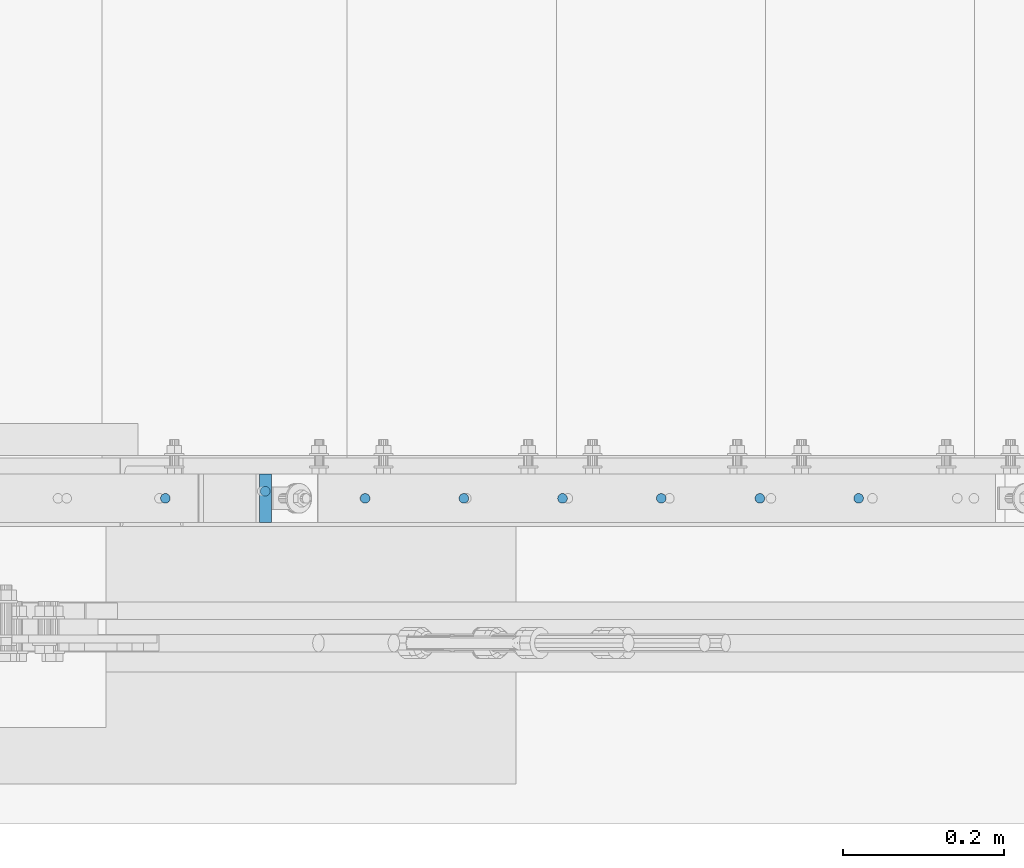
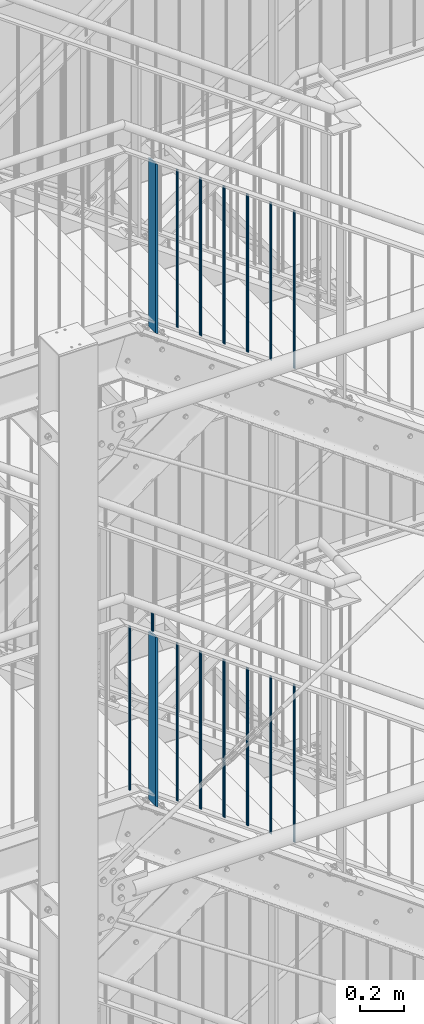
# One storey, part 35 of 825: 16 columns.
"""IFC2X3 building model written with IfcOpenShell, lengths in millimetres."""

from ifc_helpers import new_model, entity, si_unit, converted_unit, frame, origin, origin_with_axes, origin_2d, place, context, project, spatial, rectangle, circle, extrude, clip, halfspace, material, element, save


model = new_model("IFC2X3")

# Units and contexts
model_context = context("Model", 3, precision=1e-09, world=origin_with_axes())
ifc_project = project(units=[si_unit("LENGTHUNIT", "METRE", prefix="MILLI"), si_unit("AREAUNIT", "SQUARE_METRE"), si_unit("VOLUMEUNIT", "CUBIC_METRE"), converted_unit("PLANEANGLEUNIT", "DEGREE", entity("IfcPlaneAngleMeasure", 0.01745329), si_unit("PLANEANGLEUNIT", "RADIAN"), dimensions=[0, 0, 0, 0, 0, 0, 0])], contexts=[model_context])

# Site, building, storey
site_placement = place(None, origin_with_axes())
site = spatial("IfcSite", under=ifc_project, at=site_placement, Name="Cnopf'sche Kinderklinik", CompositionType="ELEMENT")
building_placement = place(site_placement, origin_with_axes())
building = spatial("IfcBuilding", under=site, at=building_placement, Name="Struktur 1", CompositionType="ELEMENT")
storey_placement = place(building_placement, origin_with_axes())
storey = spatial("IfcBuildingStorey", under=building, at=storey_placement, Name="Default Storey", CompositionType="ELEMENT", Elevation=0.0)

# Columns
ifc_material = material(Name="S235JR")
column_1_placement = place(None, frame((5394.791831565, 4526.736971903, 16139.225251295), z_axis=(0.0, 0.0, 1.0), x_axis=(-1.0, 0.0, 0.0)))
element("IfcColumn", 1, at=column_1_placement, inside=storey, material=ifc_material, Name="Railing_Post_Stair#11", ObjectType="Railing_Post_Stair#11", context=model_context, shape_type="Clipping", body=[
    clip(clip(extrude(rectangle(XDim=15.0, YDim=60.0, at=origin_2d()), origin(), (0.0, 0.0, -1.0), 1013.143391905), halfspace(frame((-4108.031662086, 4526.736971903, -3011.985205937), z_axis=(0.586383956, 0.0, -0.810033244), x_axis=(0.0, 1.0, 0.0)), True)), halfspace(frame((-3663.065195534, 4526.736971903, -3626.663740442), z_axis=(-0.586383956, 0.0, 0.810033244), x_axis=(0.0, -1.0, 0.0)), True)),
])
column_2_placement = place(None, frame((6132.791950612, 4526.736971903, 15577.286043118), z_axis=(0.0, 0.0, 1.0), x_axis=(-1.0, 0.0, 0.0)))
element("IfcColumn", 2, at=column_2_placement, inside=storey, material=ifc_material, Name="Railing_Picket_Stair#70", ObjectType="Railing_Picket_Stair#70", context=model_context, shape_type="Clipping", body=[
    clip(clip(extrude(circle(Radius=6.0, at=origin_2d()), origin(), (0.0, 0.0, -1.0), 896.017308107), halfspace(frame((-3370.031543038, 4526.736971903, -2450.04599776), z_axis=(0.586383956, 0.0, -0.810033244), x_axis=(0.0, 1.0, 0.0)), True)), halfspace(frame((-2954.384274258, 4526.736971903, -3024.222870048), z_axis=(-0.586383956, 0.0, 0.810033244), x_axis=(0.0, -1.0, 0.0)), True)),
])
column_3_placement = place(None, frame((6010.041926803, 4526.736971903, 15666.144920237), z_axis=(0.0, 0.0, 1.0), x_axis=(-1.0, 0.0, 0.0)))
element("IfcColumn", 3, at=column_3_placement, inside=storey, material=ifc_material, Name="Railing_Picket_Stair#71", ObjectType="Railing_Picket_Stair#71", context=model_context, shape_type="Clipping", body=[
    clip(clip(extrude(circle(Radius=6.0, at=origin_2d()), origin(), (0.0, 0.0, -1.0), 896.017308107), halfspace(frame((-3492.781566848, 4526.736971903, -2538.904874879), z_axis=(0.586383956, 0.0, -0.810033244), x_axis=(0.0, 1.0, 0.0)), True)), halfspace(frame((-3077.134298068, 4526.736971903, -3113.081747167), z_axis=(-0.586383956, 0.0, 0.810033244), x_axis=(0.0, -1.0, 0.0)), True)),
])
column_4_placement = place(None, frame((5887.291902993, 4526.736971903, 15755.003797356), z_axis=(0.0, 0.0, 1.0), x_axis=(-1.0, 0.0, 0.0)))
element("IfcColumn", 4, at=column_4_placement, inside=storey, material=ifc_material, Name="Railing_Picket_Stair#72", ObjectType="Railing_Picket_Stair#72", context=model_context, shape_type="Clipping", body=[
    clip(clip(extrude(circle(Radius=6.0, at=origin_2d()), origin(), (0.0, 0.0, -1.0), 896.017308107), halfspace(frame((-3615.531590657, 4526.736971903, -2627.763751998), z_axis=(0.586383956, 0.0, -0.810033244), x_axis=(0.0, 1.0, 0.0)), True)), halfspace(frame((-3199.884321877, 4526.736971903, -3201.940624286), z_axis=(-0.586383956, 0.0, 0.810033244), x_axis=(0.0, -1.0, 0.0)), True)),
])
column_5_placement = place(None, frame((5764.541879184, 4526.736971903, 15843.862674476), z_axis=(0.0, 0.0, 1.0), x_axis=(-1.0, 0.0, 0.0)))
element("IfcColumn", 5, at=column_5_placement, inside=storey, material=ifc_material, Name="Railing_Picket_Stair#73", ObjectType="Railing_Picket_Stair#73", context=model_context, shape_type="Clipping", body=[
    clip(clip(extrude(circle(Radius=6.0, at=origin_2d()), origin(), (0.0, 0.0, -1.0), 896.017308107), halfspace(frame((-3738.281614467, 4526.736971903, -2716.622629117), z_axis=(0.586383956, 0.0, -0.810033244), x_axis=(0.0, 1.0, 0.0)), True)), halfspace(frame((-3322.634345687, 4526.736971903, -3290.799501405), z_axis=(-0.586383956, 0.0, 0.810033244), x_axis=(0.0, -1.0, 0.0)), True)),
])
column_6_placement = place(None, frame((5641.791855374, 4526.736971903, 15932.721551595), z_axis=(0.0, 0.0, 1.0), x_axis=(-1.0, 0.0, 0.0)))
element("IfcColumn", 6, at=column_6_placement, inside=storey, material=ifc_material, Name="Railing_Picket_Stair#74", ObjectType="Railing_Picket_Stair#74", context=model_context, shape_type="Clipping", body=[
    clip(clip(extrude(circle(Radius=6.0, at=origin_2d()), origin(), (0.0, 0.0, -1.0), 896.017308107), halfspace(frame((-3861.031638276, 4526.736971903, -2805.481506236), z_axis=(0.586383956, 0.0, -0.810033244), x_axis=(0.0, 1.0, 0.0)), True)), halfspace(frame((-3445.384369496, 4526.736971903, -3379.658378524), z_axis=(-0.586383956, 0.0, 0.810033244), x_axis=(0.0, -1.0, 0.0)), True)),
])
column_7_placement = place(None, frame((5519.041831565, 4526.736971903, 16021.580428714), z_axis=(0.0, 0.0, 1.0), x_axis=(-1.0, 0.0, 0.0)))
element("IfcColumn", 7, at=column_7_placement, inside=storey, material=ifc_material, Name="Railing_Picket_Stair#75", ObjectType="Railing_Picket_Stair#75", context=model_context, shape_type="Clipping", body=[
    clip(clip(extrude(circle(Radius=6.0, at=origin_2d()), origin(), (0.0, 0.0, -1.0), 896.017308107), halfspace(frame((-3983.781662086, 4526.736971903, -2894.340383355), z_axis=(0.586383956, 0.0, -0.810033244), x_axis=(0.0, 1.0, 0.0)), True)), halfspace(frame((-3568.134393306, 4526.736971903, -3468.517255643), z_axis=(-0.586383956, 0.0, 0.810033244), x_axis=(0.0, -1.0, 0.0)), True)),
])
column_8_placement = place(None, frame((5270.541831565, 4526.736971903, 16201.469851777), z_axis=(0.0, 0.0, 1.0), x_axis=(-1.0, 0.0, 0.0)))
element("IfcColumn", 8, at=column_8_placement, inside=storey, material=ifc_material, Name="Railing_Picket_Landing#76", ObjectType="Railing_Picket_Landing#76", context=model_context, shape_type="Clipping", body=[
    clip(extrude(circle(Radius=6.0, at=origin_2d()), origin(), (0.0, 0.0, -1.0), 917.469851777), halfspace(frame((-4232.281662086, 4526.736971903, -3074.229806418), z_axis=(0.586383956, 0.0, -0.810033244), x_axis=(0.0, 1.0, 0.0)), True)),
])
column_9_placement = place(None, frame((5394.791831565, 4535.536971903, 16223.870312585), z_axis=(0.0, 0.0, 1.0), x_axis=(0.0, 1.0, 0.0)))
element("IfcColumn", 9, at=column_9_placement, inside=storey, material=ifc_material, Name="Bar#11", ObjectType="Bar#11", context=model_context, shape_type="Clipping", body=[
    clip(clip(extrude(circle(Radius=6.0, at=origin_2d()), origin(), (0.0, 0.0, -1.0), 120.950452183), halfspace(frame((-4535.536971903, -4161.394551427, -3022.914549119), z_axis=(0.0, 0.586383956, -0.810033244), x_axis=(-1.0, 0.0, 0.0)), True)), halfspace(frame((-4535.536971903, -4113.896674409, -3088.528314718), z_axis=(0.0, -0.586383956, 0.810033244), x_axis=(1.0, 0.0, 0.0)), True)),
])
column_10_placement = place(None, frame((5394.791831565, 4526.736971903, 18759.877340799), z_axis=(0.0, 0.0, 1.0), x_axis=(-1.0, 0.0, 0.0)))
element("IfcColumn", 10, at=column_10_placement, inside=storey, material=ifc_material, Name="Railing_Post_Stair#11", ObjectType="Railing_Post_Stair#11", context=model_context, shape_type="Clipping", body=[
    clip(clip(extrude(rectangle(XDim=15.0, YDim=60.0, at=origin_2d()), origin(), (0.0, 0.0, -1.0), 1013.117713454), halfspace(frame((-5323.008518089, 4526.736971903, -3869.498225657), z_axis=(0.584187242, 0.0, -0.811618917), x_axis=(0.0, 1.0, 0.0)), True)), halfspace(frame((-4878.782656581, 4526.736971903, -4486.666979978), z_axis=(-0.584187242, 0.0, 0.811618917), x_axis=(0.0, -1.0, 0.0)), True)),
])
column_11_placement = place(None, frame((6132.791950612, 4526.736971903, 18201.033460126), z_axis=(0.0, 0.0, 1.0), x_axis=(-1.0, 0.0, 0.0)))
element("IfcColumn", 11, at=column_11_placement, inside=storey, material=ifc_material, Name="Railing_Picket_Stair#70", ObjectType="Railing_Picket_Stair#70", context=model_context, shape_type="Clipping", body=[
    clip(clip(extrude(circle(Radius=6.0, at=origin_2d()), origin(), (0.0, 0.0, -1.0), 896.220460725), halfspace(frame((-4585.008399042, 4526.736971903, -3310.654344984), z_axis=(0.584187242, 0.0, -0.811618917), x_axis=(0.0, 1.0, 0.0)), True)), halfspace(frame((-4169.991899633, 4526.736971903, -3887.242153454), z_axis=(-0.584187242, 0.0, 0.811618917), x_axis=(0.0, -1.0, 0.0)), True)),
])
column_12_placement = place(None, frame((6010.041926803, 4526.736971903, 18289.386499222), z_axis=(0.0, 0.0, 1.0), x_axis=(-1.0, 0.0, 0.0)))
element("IfcColumn", 12, at=column_12_placement, inside=storey, material=ifc_material, Name="Railing_Picket_Stair#71", ObjectType="Railing_Picket_Stair#71", context=model_context, shape_type="Clipping", body=[
    clip(clip(extrude(circle(Radius=6.0, at=origin_2d()), origin(), (0.0, 0.0, -1.0), 896.220460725), halfspace(frame((-4707.758422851, 4526.736971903, -3399.007384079), z_axis=(0.584187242, 0.0, -0.811618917), x_axis=(0.0, 1.0, 0.0)), True)), halfspace(frame((-4292.741923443, 4526.736971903, -3975.595192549), z_axis=(-0.584187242, 0.0, 0.811618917), x_axis=(0.0, -1.0, 0.0)), True)),
])
column_13_placement = place(None, frame((5887.291902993, 4526.736971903, 18377.739538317), z_axis=(0.0, 0.0, 1.0), x_axis=(-1.0, 0.0, 0.0)))
element("IfcColumn", 13, at=column_13_placement, inside=storey, material=ifc_material, Name="Railing_Picket_Stair#72", ObjectType="Railing_Picket_Stair#72", context=model_context, shape_type="Clipping", body=[
    clip(clip(extrude(circle(Radius=6.0, at=origin_2d()), origin(), (0.0, 0.0, -1.0), 896.220460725), halfspace(frame((-4830.508446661, 4526.736971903, -3487.360423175), z_axis=(0.584187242, 0.0, -0.811618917), x_axis=(0.0, 1.0, 0.0)), True)), halfspace(frame((-4415.491947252, 4526.736971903, -4063.948231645), z_axis=(-0.584187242, 0.0, 0.811618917), x_axis=(0.0, -1.0, 0.0)), True)),
])
column_14_placement = place(None, frame((5764.541879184, 4526.736971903, 18466.092577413), z_axis=(0.0, 0.0, 1.0), x_axis=(-1.0, 0.0, 0.0)))
element("IfcColumn", 14, at=column_14_placement, inside=storey, material=ifc_material, Name="Railing_Picket_Stair#73", ObjectType="Railing_Picket_Stair#73", context=model_context, shape_type="Clipping", body=[
    clip(clip(extrude(circle(Radius=6.0, at=origin_2d()), origin(), (0.0, 0.0, -1.0), 896.220460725), halfspace(frame((-4953.25847047, 4526.736971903, -3575.71346227), z_axis=(0.584187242, 0.0, -0.811618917), x_axis=(0.0, 1.0, 0.0)), True)), halfspace(frame((-4538.241971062, 4526.736971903, -4152.30127074), z_axis=(-0.584187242, 0.0, 0.811618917), x_axis=(0.0, -1.0, 0.0)), True)),
])
column_15_placement = place(None, frame((5641.791855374, 4526.736971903, 18554.445616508), z_axis=(0.0, 0.0, 1.0), x_axis=(-1.0, 0.0, 0.0)))
element("IfcColumn", 15, at=column_15_placement, inside=storey, material=ifc_material, Name="Railing_Picket_Stair#74", ObjectType="Railing_Picket_Stair#74", context=model_context, shape_type="Clipping", body=[
    clip(clip(extrude(circle(Radius=6.0, at=origin_2d()), origin(), (0.0, 0.0, -1.0), 896.220460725), halfspace(frame((-5076.00849428, 4526.736971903, -3664.066501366), z_axis=(0.584187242, 0.0, -0.811618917), x_axis=(0.0, 1.0, 0.0)), True)), halfspace(frame((-4660.991994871, 4526.736971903, -4240.654309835), z_axis=(-0.584187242, 0.0, 0.811618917), x_axis=(0.0, -1.0, 0.0)), True)),
])
column_16_placement = place(None, frame((5519.041831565, 4526.736971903, 18642.798655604), z_axis=(0.0, 0.0, 1.0), x_axis=(-1.0, 0.0, 0.0)))
element("IfcColumn", 16, at=column_16_placement, inside=storey, material=ifc_material, Name="Railing_Picket_Stair#75", ObjectType="Railing_Picket_Stair#75", context=model_context, shape_type="Clipping", body=[
    clip(clip(extrude(circle(Radius=6.0, at=origin_2d()), origin(), (0.0, 0.0, -1.0), 896.220460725), halfspace(frame((-5198.758518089, 4526.736971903, -3752.419540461), z_axis=(0.584187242, 0.0, -0.811618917), x_axis=(0.0, 1.0, 0.0)), True)), halfspace(frame((-4783.742018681, 4526.736971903, -4329.007348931), z_axis=(-0.584187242, 0.0, 0.811618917), x_axis=(0.0, -1.0, 0.0)), True)),
])

save(model, "model.ifc")
